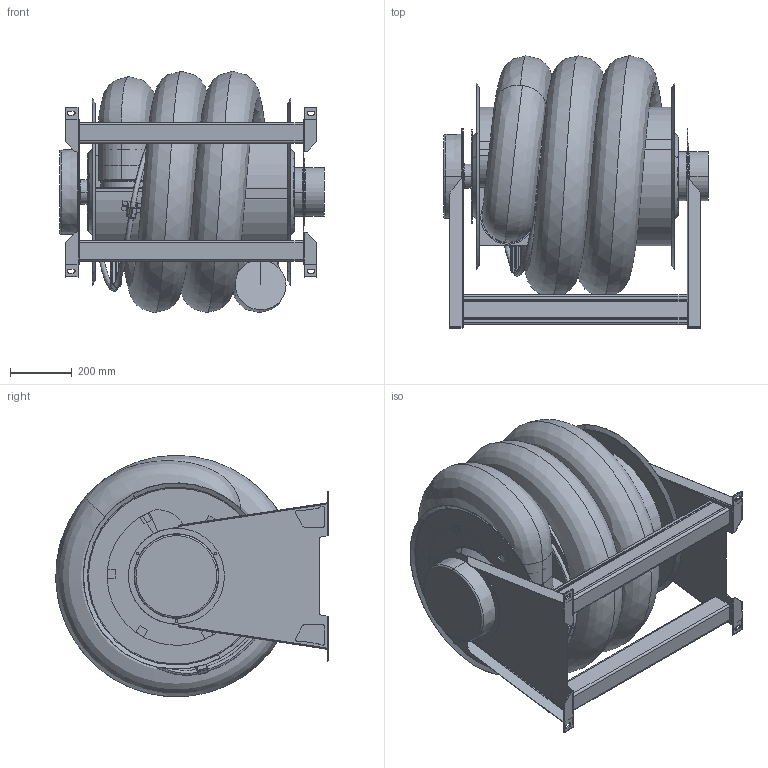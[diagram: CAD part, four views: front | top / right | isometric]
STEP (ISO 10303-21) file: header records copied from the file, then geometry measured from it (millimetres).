
FILE_DESCRIPTION((''),'2;1');
FILE_NAME('ASE_65_150-5','2016-12-14T',('Martin Eriksson'),(''),'CREO PARAMETRIC BY PTC INC, 2016130','CREO PARAMETRIC BY PTC INC, 2016130','');
FILE_SCHEMA(('AUTOMOTIVE_DESIGN { 1 0 10303 214 1 1 1 1 }'));
Length unit declared in the file: millimetre
Products named in the file (23): 110534; 110536; 110801; 111736; 111735; 110571; 112850; 110528; 110591; 110651; 110618; 110685; 110628; G_ASE_DUMMY; 124129; G_ASL-EVO_150CON_BRACKET; GUIDE_150; 110660; ASL-EVO_65_150_165; SPRING_DUMMY; 124297; AG_HOSE_150_165_5; ASE_65_150-5
Assembly tree (26 placements, depth 4):
  ASE_65_150-5
    110571
      110534
      110536
      110801  x2
      111736
      111735
    112850  x2
    ASL-EVO_65_150_165
      110528  x2
      110591
      110651
      110628
        110618
        110685
      G_ASL-EVO_150CON_BRACKET
        G_ASE_DUMMY
        124129
      GUIDE_150
      110660  x2
    SPRING_DUMMY
    124297
    AG_HOSE_150_165_5
Bounding box: 853.5 x 879.38 x 778.6 mm (x, y, z)
Volume: 221673820.6 mm3; surface area: 9680923.6 mm2
Topology: 22 solids, 27 shells, 806 faces, 1893 edges, 1142 vertices
Faces by surface type: plane 418, cylinder 247, torus 74, cone 34, bspline 33
Entity records: 37252 total; most frequent: CARTESIAN_POINT 10685, DIRECTION 3204, ORIENTED_EDGE 2894, EDGE_CURVE 1455, PRESENTATION_STYLE_ASSIGNMENT 1362, STYLED_ITEM 1361, AXIS2_PLACEMENT_3D 1176, PROPERTY_DEFINITION 1174
